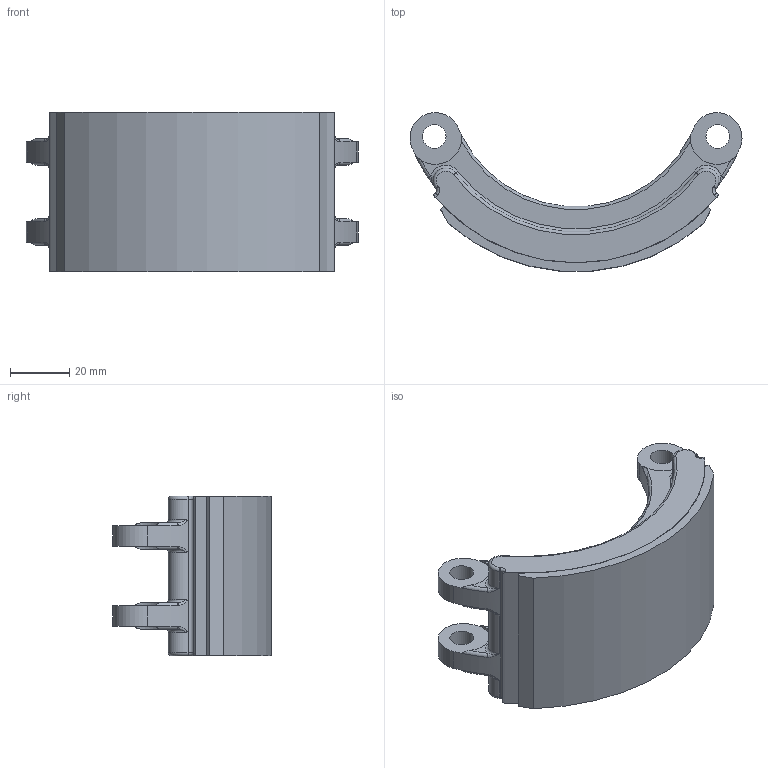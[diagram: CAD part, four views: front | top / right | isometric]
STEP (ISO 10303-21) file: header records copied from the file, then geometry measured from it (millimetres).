
FILE_DESCRIPTION((''),'2;1');
FILE_NAME('I:\Kurz\oerlikon_neu\Fliehkraftkupplung\682Modelle-Ausfuehrung_mit_Passfeder\Modell_Fliehgewicht_Pos5.stp','2010-05-04T19:53:16',('Administrator'),(''),'Autodesk Inventor 11','Autodesk Inventor 11','');
FILE_SCHEMA(('AUTOMOTIVE_DESIGN { 1 0 10303 214 1 1 1 1 }'));
Length unit declared in the file: millimetre
Products named in the file (3): Pos5_Fliehgewicht; Pos5_2_Belag; Pos5_1_Gewicht
Assembly tree (2 placements, depth 2):
  Pos5_Fliehgewicht
    Pos5_2_Belag
    Pos5_1_Gewicht
Bounding box: 112.14 x 53.57 x 54 mm (x, y, z)
Volume: 98744.4 mm3; surface area: 33194.7 mm2
Topology: 2 solids, 2 shells, 112 faces, 284 edges, 168 vertices
Faces by surface type: cylinder 38, torus 38, plane 28, bspline 8
Full cylindrical faces by diameter (mm): 8 x4
Entity records: 4626 total; most frequent: CARTESIAN_POINT 1893, DIRECTION 604, ORIENTED_EDGE 544, EDGE_CURVE 272, AXIS2_PLACEMENT_3D 271, VERTEX_POINT 168, CIRCLE 162, EDGE_LOOP 124
